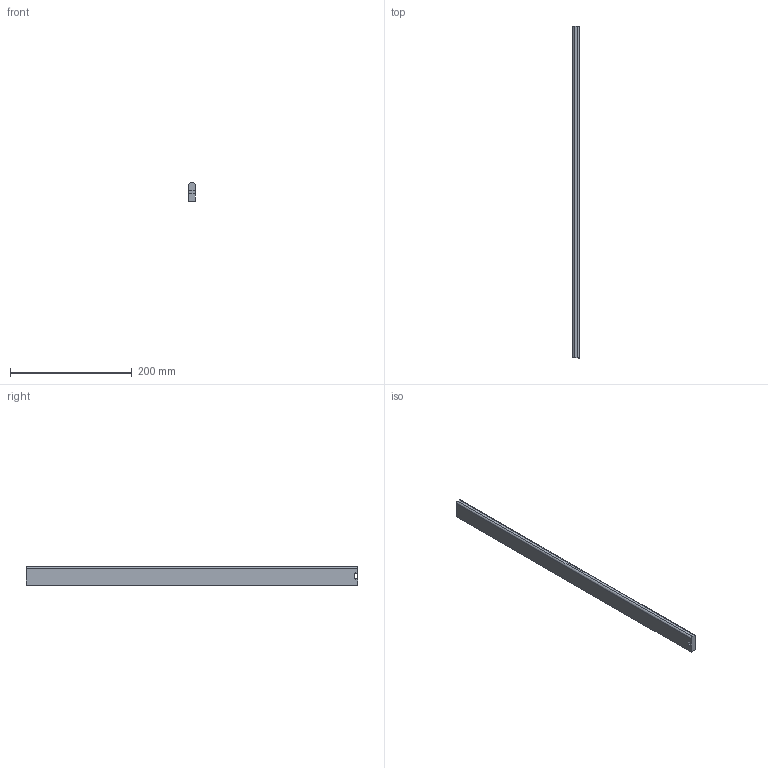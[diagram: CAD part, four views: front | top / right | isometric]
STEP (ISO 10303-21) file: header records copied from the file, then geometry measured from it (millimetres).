
FILE_DESCRIPTION (( 'STEP AP214' ), '1' );
FILE_NAME ('_Seitenreling_S610000200_RL545.step', '2010-09-06T14:51:23', ( 'grass' ), ( '' ), 'SwSTEP 2.0', 'SolidWorks 2010', '' );
FILE_SCHEMA (( 'AUTOMOTIVE_DESIGN' ));
Length unit declared in the file: millimetre
Products named in the file (1): _Seitenreling_S610000200_RL545
Bounding box: 10.5 x 545 x 30 mm (x, y, z)
Volume: 169101.1 mm3; surface area: 43544.4 mm2
Topology: 1 solids, 1 shells, 12 faces, 30 edges, 20 vertices
Faces by surface type: plane 8, cylinder 4
Entity records: 400 total; most frequent: DIRECTION 64, CARTESIAN_POINT 63, ORIENTED_EDGE 60, EDGE_CURVE 30, LINE 22, VECTOR 22, AXIS2_PLACEMENT_3D 21, VERTEX_POINT 20
